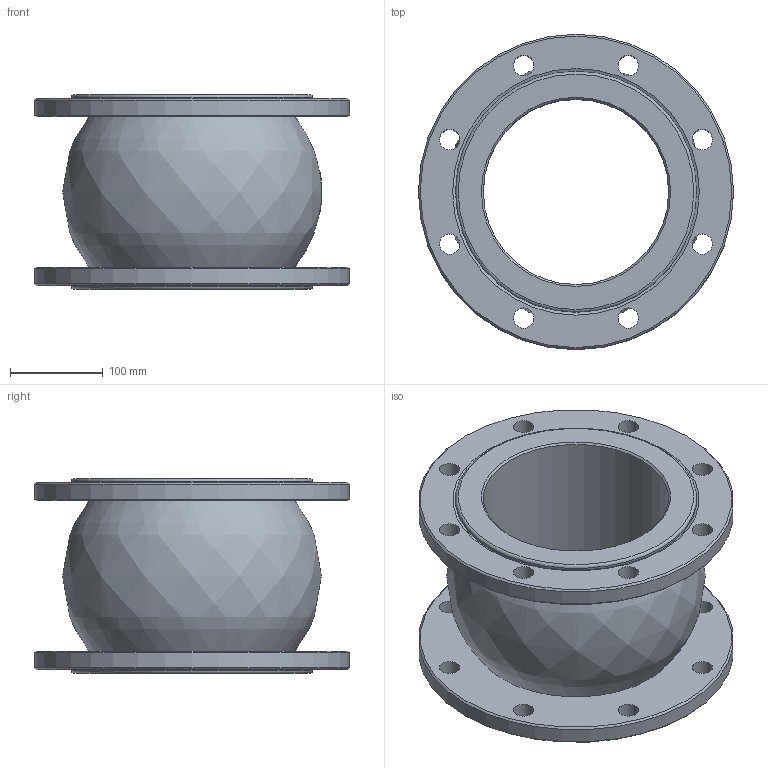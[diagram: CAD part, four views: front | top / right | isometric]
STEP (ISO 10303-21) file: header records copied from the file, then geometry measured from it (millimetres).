
FILE_DESCRIPTION(/* description */ ('D140-02095','CAx-IF Rec.Pracs.---Representation and Presentation of Product Manufacturing Information (PMI)---4.0---2014-10-13'),/* implementation_level */ '2;1');
FILE_NAME(/* name */ '',/* time_stamp */ '2026-03-11T00:46:40+03:00',/* author */ ('DN.RU'),/* organization */ ('DN.RU'),/* preprocessor_version */ 'ST-DEVELOPER v20',/* originating_system */ 'Autodesk Inventor 2025',/* authorisation */ '');
FILE_SCHEMA (('AP242_MANAGED_MODEL_BASED_3D_ENGINEERING_MIM_LF { 1 0 10303 442 1 1 4 }'));
Length unit declared in the file: millimetre
Products named in the file (1): CR-N34-F
Bounding box: 340 x 340 x 210 mm (x, y, z)
Volume: 6026808.3 mm3; surface area: 551612.3 mm2
Topology: 1 solids, 1 shells, 107 faces, 292 edges, 194 vertices
Faces by surface type: plane 43, bspline 34, cylinder 21, cone 7, torus 2
Full cylindrical faces by diameter (mm): 22 x16, 200 x1, 260 x2, 340 x2
Entity records: 4542 total; most frequent: CARTESIAN_POINT 1616, ORIENTED_EDGE 584, DIRECTION 544, EDGE_CURVE 292, AXIS2_PLACEMENT_3D 228, VERTEX_POINT 194, EDGE_LOOP 148, CIRCLE 141
